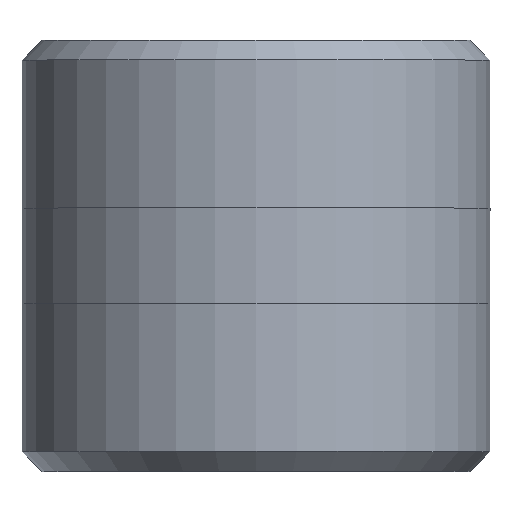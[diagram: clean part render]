
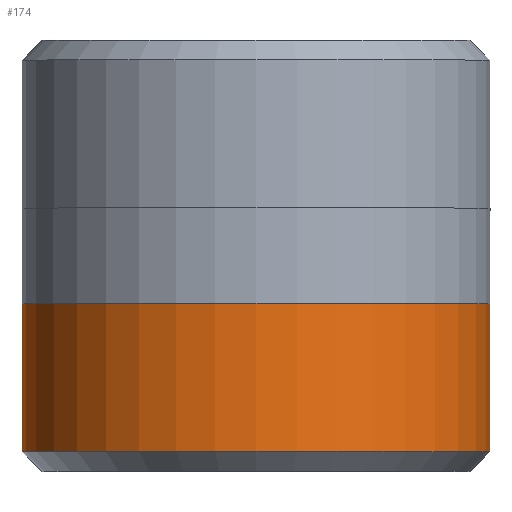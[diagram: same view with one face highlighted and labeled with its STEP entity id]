
A CAD part, top view. The second image highlights one B-rep face of the part: STEP entity #174.
In plain terms, the highlighted cylindrical face has radius 24.105 mm (diameter 48.209 mm), a full revolution.
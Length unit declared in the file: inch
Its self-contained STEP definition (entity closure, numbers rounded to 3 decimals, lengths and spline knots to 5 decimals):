
#23=CYLINDRICAL_SURFACE('',#201,0.949);
#28=FACE_OUTER_BOUND('',#38,.T.);
#38=EDGE_LOOP('',(#128,#129,#130,#131,#132,#133));
#52=LINE('',#300,#58);
#58=VECTOR('',#238,0.949);
#64=CIRCLE('',#199,0.949);
#65=CIRCLE('',#200,0.949);
#66=CIRCLE('',#202,0.949);
#67=CIRCLE('',#203,0.949);
#82=VERTEX_POINT('',#293);
#83=VERTEX_POINT('',#295);
#84=VERTEX_POINT('',#299);
#85=VERTEX_POINT('',#301);
#101=EDGE_CURVE('',#82,#83,#64,.T.);
#102=EDGE_CURVE('',#83,#82,#65,.T.);
#103=EDGE_CURVE('',#83,#84,#52,.T.);
#104=EDGE_CURVE('',#84,#85,#66,.T.);
#105=EDGE_CURVE('',#85,#84,#67,.T.);
#128=ORIENTED_EDGE('',*,*,#101,.F.);
#129=ORIENTED_EDGE('',*,*,#102,.F.);
#130=ORIENTED_EDGE('',*,*,#103,.T.);
#131=ORIENTED_EDGE('',*,*,#104,.T.);
#132=ORIENTED_EDGE('',*,*,#105,.T.);
#133=ORIENTED_EDGE('',*,*,#103,.F.);
#174=ADVANCED_FACE('',(#28),#23,.T.);
#199=AXIS2_PLACEMENT_3D('',#296,#232,#233);
#200=AXIS2_PLACEMENT_3D('',#297,#234,#235);
#201=AXIS2_PLACEMENT_3D('',#298,#236,#237);
#202=AXIS2_PLACEMENT_3D('',#302,#239,#240);
#203=AXIS2_PLACEMENT_3D('',#303,#241,#242);
#232=DIRECTION('center_axis',(0.,-1.,0.));
#233=DIRECTION('ref_axis',(0.,0.,1.));
#234=DIRECTION('center_axis',(0.,-1.,0.));
#235=DIRECTION('ref_axis',(0.,0.,1.));
#236=DIRECTION('center_axis',(0.,-1.,0.));
#237=DIRECTION('ref_axis',(0.,0.,-1.));
#238=DIRECTION('',(0.,1.,0.));
#239=DIRECTION('center_axis',(0.,-1.,0.));
#240=DIRECTION('ref_axis',(1.,0.,0.));
#241=DIRECTION('center_axis',(0.,-1.,0.));
#242=DIRECTION('ref_axis',(1.,0.,0.));
#293=CARTESIAN_POINT('',(0.,0.08,-0.949));
#295=CARTESIAN_POINT('',(0.,0.08,0.949));
#296=CARTESIAN_POINT('Origin',(0.,0.08,0.));
#297=CARTESIAN_POINT('Origin',(0.,0.08,0.));
#298=CARTESIAN_POINT('Origin',(0.,0.3405,0.));
#299=CARTESIAN_POINT('',(0.,0.681,0.949));
#300=CARTESIAN_POINT('',(0.,0.3405,0.949));
#301=CARTESIAN_POINT('',(0.,0.681,-0.949));
#302=CARTESIAN_POINT('Origin',(0.,0.681,0.));
#303=CARTESIAN_POINT('Origin',(0.,0.681,0.));
